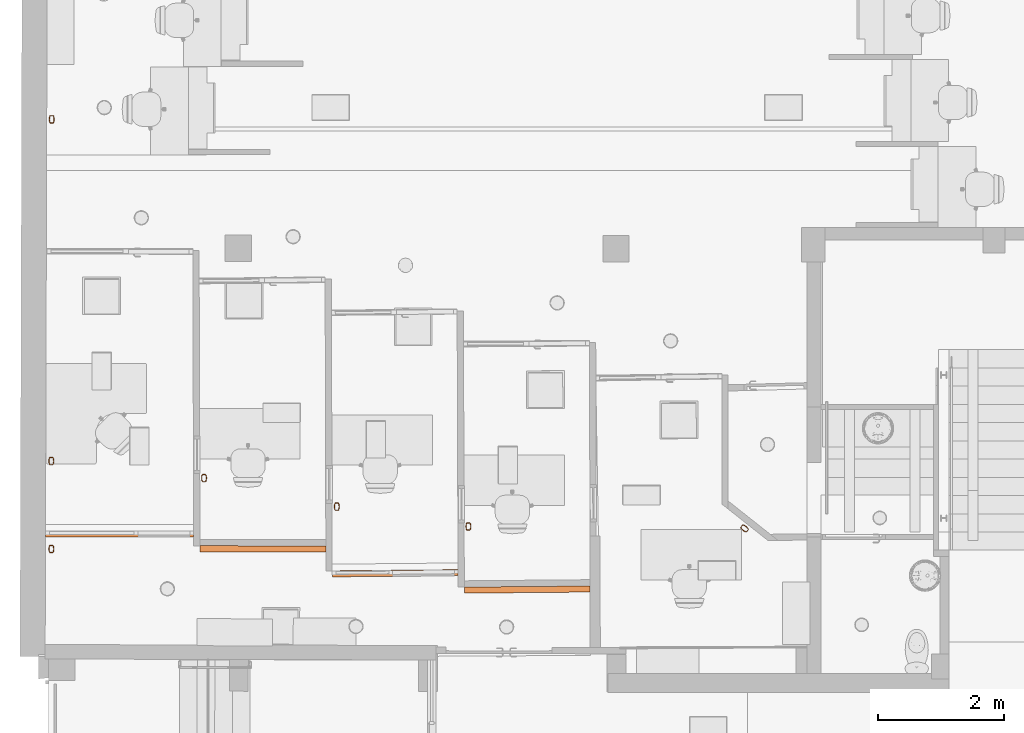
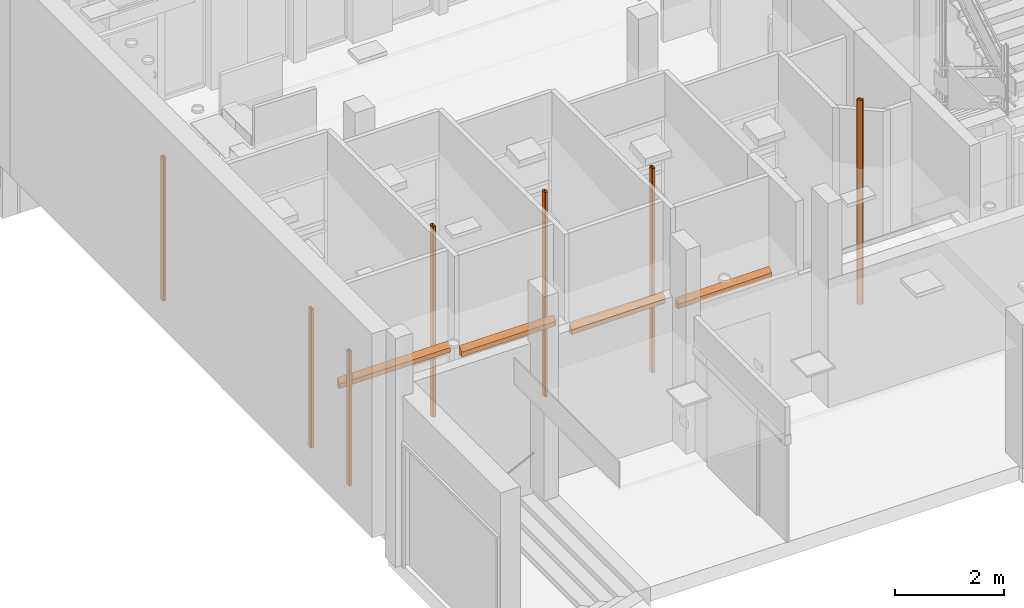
# One storey, part 124 of 128: 11 proxies.
"""IFC2X3 building model written with IfcOpenShell, lengths in metres."""

from ifc_helpers import new_model, entity, si_unit, converted_unit, derived_unit, direction, frame, origin, place, context, subcontext, project, spatial, polyline, outline, extrude, source, transform, mapped, material, type_object, type_shapes, element, save


model = new_model("IFC2X3")

# Units and contexts
model_context = context("Model", 3, precision=1e-05, world=origin(), true_north=direction((6.123031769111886e-17, 1.0)))
body_context = subcontext(model_context, "Body", "Model", "MODEL_VIEW")
ifc_project = project(units=[si_unit("LENGTHUNIT", "METRE"), si_unit("AREAUNIT", "SQUARE_METRE"), converted_unit("PLANEANGLEUNIT", "DEGREE", entity("IfcPlaneAngleMeasure", 0.017453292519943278), si_unit("PLANEANGLEUNIT", "RADIAN"), dimensions=[0, 0, 0, 0, 0, 0, 0]), derived_unit("THERMALTRANSMITTANCEUNIT", [(si_unit("MASSUNIT", "GRAM", prefix="KILO"), 1), (si_unit("THERMODYNAMICTEMPERATUREUNIT", "KELVIN"), -1), (si_unit("TIMEUNIT", "SECOND"), -3)])], contexts=[model_context])

# Site, building, storey
site_placement = place(None, origin())
site = spatial("IfcSite", under=ifc_project, at=site_placement, Name="Default", CompositionType="ELEMENT")
building_placement = place(site_placement, origin())
building = spatial("IfcBuilding", under=site, at=building_placement, CompositionType="ELEMENT")
storey_placement = place(building_placement, origin())
storey = spatial("IfcBuildingStorey", under=building, at=storey_placement, Name="00_RDC CAF", CompositionType="ELEMENT", Elevation=2.4982504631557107e-13)

# Proxies
ifc_material_1 = material(Name="<Unnamed>")
building_element_proxy_type_1 = type_object("IfcBuildingElementProxyType", Name="Eq_Elec_Colonne_Electrique:Eq_Elec_Colonne_Electrique_120x80mm", PredefinedType="NOTDEFINED", material=ifc_material_1)
shared_shape_1 = source(origin(), body_context, "Body", "SweptSolid", [
    extrude(outline(polyline([(-0.020000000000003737, -0.05999999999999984), (0.019999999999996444, -0.05999999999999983), (0.023128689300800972, -0.05926130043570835), (0.02907980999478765, -0.053460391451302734), (0.03414213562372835, -0.042426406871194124), (0.0378201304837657, -0.027239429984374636), (0.03975376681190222, -0.009386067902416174), (0.03975376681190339, 0.009386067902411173), (0.03782013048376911, 0.02723942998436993), (0.03414213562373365, 0.04242640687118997), (0.029079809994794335, 0.05346039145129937), (0.02312868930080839, 0.05926130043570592), (0.020000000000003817, 0.05999999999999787), (-0.019999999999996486, 0.06000000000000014), (-0.02312868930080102, 0.05926130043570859), (-0.029079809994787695, 0.05346039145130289), (-0.034142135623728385, 0.042426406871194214), (-0.03782013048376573, 0.02723942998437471), (-0.03975376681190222, 0.009386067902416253), (-0.03975376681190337, -0.009386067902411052), (-0.037820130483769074, -0.02723942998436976), (-0.03414213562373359, -0.04242640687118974), (-0.02907980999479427, -0.053460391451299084), (-0.023128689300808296, -0.05926130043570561), (-0.020000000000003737, -0.05999999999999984)]), holes=[polyline([(-0.020000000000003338, -0.054999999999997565), (-0.020774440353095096, -0.05483604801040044), (-0.0220433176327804, -0.05405805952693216), (-0.023758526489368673, -0.05229805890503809), (-0.025667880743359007, -0.04946080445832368), (-0.027588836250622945, -0.04560885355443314), (-0.029398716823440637, -0.04084541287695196), (-0.031022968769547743, -0.03528665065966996), (-0.032410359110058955, -0.029054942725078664), (-0.03352451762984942, -0.02227710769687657), (-0.03433829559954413, -0.015084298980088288), (-0.03483355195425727, -0.007612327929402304), (-0.035000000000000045, 0.0), (-0.03483355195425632, 0.007612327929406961), (-0.03433829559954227, 0.01508429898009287), (-0.033524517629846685, 0.022277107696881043), (-0.03241035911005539, 0.02905494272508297), (-0.031022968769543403, 0.035286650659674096), (-0.02939871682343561, 0.04084541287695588), (-0.027588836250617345, 0.04560885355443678), (-0.025667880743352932, 0.04946080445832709), (-0.02375852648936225, 0.052298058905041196), (-0.022043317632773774, 0.054058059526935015), (-0.020774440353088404, 0.05483604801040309), (-0.019999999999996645, 0.05500000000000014), (0.020000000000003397, 0.05499999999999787), (0.020774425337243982, 0.054836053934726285), (0.022043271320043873, 0.05405809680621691), (0.023758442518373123, 0.05229816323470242), (0.025667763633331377, 0.049461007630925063), (0.02758869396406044, 0.04560918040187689), (0.02939856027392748, 0.04084588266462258), (0.03102280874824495, 0.03528727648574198), (0.0324102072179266, 0.02905573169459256), (0.03352438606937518, 0.022278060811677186), (0.034338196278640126, 0.015085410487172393), (0.03483349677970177, 0.007613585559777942), (0.0349999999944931, 1.3846905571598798e-06), (0.03483361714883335, -0.007610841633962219), (0.03433843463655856, -0.01508274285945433), (0.03352473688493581, -0.022275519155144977), (0.03241066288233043, -0.029053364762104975), (0.031023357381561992, -0.03528513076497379), (0.02939918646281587, -0.04084400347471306), (0.02758937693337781, -0.045607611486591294), (0.025668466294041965, -0.04945978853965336), (0.023759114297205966, -0.05229732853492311), (0.022043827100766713, -0.05405764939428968), (0.02077478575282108, -0.054835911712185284), (0.020000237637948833, -0.05500000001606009), (-0.020000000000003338, -0.054999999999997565)])]), frame((0.0, 0.0, 0.0), z_axis=(0.0, 0.0, 1.0), x_axis=(0.0, -1.0, 0.0)), (0.0, 0.0, 1.0), 3.2),
])
type_shapes(building_element_proxy_type_1, [shared_shape_1])
proxy_1_placement = place(storey_placement, frame((6.76459806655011, 138.60449110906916, 0.0), z_axis=(0.0, 0.0, 1.0), x_axis=(0.0, -1.0, 0.0)))
element("IfcBuildingElementProxy", 1, at=proxy_1_placement, inside=storey, type_object=building_element_proxy_type_1, material=ifc_material_1, Name="Eq_Elec_Colonne_Electrique:Eq_Elec_Colonne_Electrique_120x80mm", ObjectType="Eq_Elec_Colonne_Electrique:Eq_Elec_Colonne_Electrique_120x80mm", context=body_context, shape_type="MappedRepresentation", body=[
    mapped(shared_shape_1, transform((0.0, 0.0, 0.0), scale=1.0)),
])
building_element_proxy_type_2 = type_object("IfcBuildingElementProxyType", Name="Eq_Elec_Colonne_Electrique:Eq_Elec_Colonne_Electrique_120x80mm", PredefinedType="NOTDEFINED", material=ifc_material_1)
shared_shape_2 = source(origin(), body_context, "Body", "SweptSolid", [
    extrude(outline(polyline([(-0.020000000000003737, -0.05999999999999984), (0.019999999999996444, -0.05999999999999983), (0.023128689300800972, -0.05926130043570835), (0.02907980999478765, -0.053460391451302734), (0.03414213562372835, -0.042426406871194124), (0.0378201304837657, -0.027239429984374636), (0.03975376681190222, -0.009386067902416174), (0.03975376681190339, 0.009386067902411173), (0.03782013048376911, 0.02723942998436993), (0.03414213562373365, 0.04242640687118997), (0.029079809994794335, 0.05346039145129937), (0.02312868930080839, 0.05926130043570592), (0.020000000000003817, 0.05999999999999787), (-0.019999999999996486, 0.06000000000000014), (-0.02312868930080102, 0.05926130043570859), (-0.029079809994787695, 0.05346039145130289), (-0.034142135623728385, 0.042426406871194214), (-0.03782013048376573, 0.02723942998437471), (-0.03975376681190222, 0.009386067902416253), (-0.03975376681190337, -0.009386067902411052), (-0.037820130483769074, -0.02723942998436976), (-0.03414213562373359, -0.04242640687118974), (-0.02907980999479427, -0.053460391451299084), (-0.023128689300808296, -0.05926130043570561), (-0.020000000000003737, -0.05999999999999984)]), holes=[polyline([(-0.020000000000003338, -0.054999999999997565), (-0.020774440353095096, -0.05483604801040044), (-0.0220433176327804, -0.05405805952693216), (-0.023758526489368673, -0.05229805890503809), (-0.025667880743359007, -0.04946080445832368), (-0.027588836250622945, -0.04560885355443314), (-0.029398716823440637, -0.04084541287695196), (-0.031022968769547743, -0.03528665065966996), (-0.032410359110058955, -0.029054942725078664), (-0.03352451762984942, -0.02227710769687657), (-0.03433829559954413, -0.015084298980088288), (-0.03483355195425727, -0.007612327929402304), (-0.035000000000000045, 0.0), (-0.03483355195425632, 0.007612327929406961), (-0.03433829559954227, 0.01508429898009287), (-0.033524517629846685, 0.022277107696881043), (-0.03241035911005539, 0.02905494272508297), (-0.031022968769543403, 0.035286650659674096), (-0.02939871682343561, 0.04084541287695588), (-0.027588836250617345, 0.04560885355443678), (-0.025667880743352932, 0.04946080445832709), (-0.02375852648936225, 0.052298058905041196), (-0.022043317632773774, 0.054058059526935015), (-0.020774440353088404, 0.05483604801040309), (-0.019999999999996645, 0.05500000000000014), (0.020000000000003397, 0.05499999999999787), (0.020774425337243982, 0.054836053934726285), (0.022043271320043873, 0.05405809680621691), (0.023758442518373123, 0.05229816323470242), (0.025667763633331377, 0.049461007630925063), (0.02758869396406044, 0.04560918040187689), (0.02939856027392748, 0.04084588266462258), (0.03102280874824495, 0.03528727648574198), (0.0324102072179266, 0.02905573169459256), (0.03352438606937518, 0.022278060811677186), (0.034338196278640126, 0.015085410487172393), (0.03483349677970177, 0.007613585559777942), (0.0349999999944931, 1.3846905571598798e-06), (0.03483361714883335, -0.007610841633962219), (0.03433843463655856, -0.01508274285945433), (0.03352473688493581, -0.022275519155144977), (0.03241066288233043, -0.029053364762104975), (0.031023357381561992, -0.03528513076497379), (0.02939918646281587, -0.04084400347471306), (0.02758937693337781, -0.045607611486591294), (0.025668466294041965, -0.04945978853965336), (0.023759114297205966, -0.05229732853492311), (0.022043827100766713, -0.05405764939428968), (0.02077478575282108, -0.054835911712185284), (0.020000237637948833, -0.05500000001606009), (-0.020000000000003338, -0.054999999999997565)])]), frame((0.0, 0.0, 0.0), z_axis=(0.0, 0.0, 1.0), x_axis=(0.0, -1.0, 0.0)), (0.0, 0.0, 1.0), 3.0999999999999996),
])
type_shapes(building_element_proxy_type_2, [shared_shape_2])
proxy_2_placement = place(storey_placement, frame((6.758705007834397, 133.17071065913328, 0.0), z_axis=(0.0, 0.0, 1.0), x_axis=(0.0, 1.0, 0.0)))
element("IfcBuildingElementProxy", 2, at=proxy_2_placement, inside=storey, type_object=building_element_proxy_type_2, material=ifc_material_1, Name="Eq_Elec_Colonne_Electrique:Eq_Elec_Colonne_Electrique_120x80mm", ObjectType="Eq_Elec_Colonne_Electrique:Eq_Elec_Colonne_Electrique_120x80mm", context=body_context, shape_type="MappedRepresentation", body=[
    mapped(shared_shape_2, transform((0.0, 0.0, 0.0), scale=1.0)),
])
building_element_proxy_type_3 = type_object("IfcBuildingElementProxyType", Name="Eq_Elec_Colonne_Electrique:Eq_Elec_Colonne_Electrique_120x80mm", PredefinedType="NOTDEFINED", material=ifc_material_1)
shared_shape_3 = source(origin(), body_context, "Body", "SweptSolid", [
    extrude(outline(polyline([(-0.020000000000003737, -0.05999999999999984), (0.019999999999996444, -0.05999999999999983), (0.023128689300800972, -0.05926130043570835), (0.02907980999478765, -0.053460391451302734), (0.03414213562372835, -0.042426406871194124), (0.0378201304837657, -0.027239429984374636), (0.03975376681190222, -0.009386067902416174), (0.03975376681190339, 0.009386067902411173), (0.03782013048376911, 0.02723942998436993), (0.03414213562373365, 0.04242640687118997), (0.029079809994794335, 0.05346039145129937), (0.02312868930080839, 0.05926130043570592), (0.020000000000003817, 0.05999999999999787), (-0.019999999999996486, 0.06000000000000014), (-0.02312868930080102, 0.05926130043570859), (-0.029079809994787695, 0.05346039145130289), (-0.034142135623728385, 0.042426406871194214), (-0.03782013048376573, 0.02723942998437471), (-0.03975376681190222, 0.009386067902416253), (-0.03975376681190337, -0.009386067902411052), (-0.037820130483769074, -0.02723942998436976), (-0.03414213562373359, -0.04242640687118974), (-0.02907980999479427, -0.053460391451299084), (-0.023128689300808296, -0.05926130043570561), (-0.020000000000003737, -0.05999999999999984)]), holes=[polyline([(-0.020000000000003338, -0.054999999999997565), (-0.020774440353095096, -0.05483604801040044), (-0.0220433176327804, -0.05405805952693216), (-0.023758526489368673, -0.05229805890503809), (-0.025667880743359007, -0.04946080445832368), (-0.027588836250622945, -0.04560885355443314), (-0.029398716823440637, -0.04084541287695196), (-0.031022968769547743, -0.03528665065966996), (-0.032410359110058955, -0.029054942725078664), (-0.03352451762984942, -0.02227710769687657), (-0.03433829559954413, -0.015084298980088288), (-0.03483355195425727, -0.007612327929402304), (-0.035000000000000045, 0.0), (-0.03483355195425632, 0.007612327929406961), (-0.03433829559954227, 0.01508429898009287), (-0.033524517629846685, 0.022277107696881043), (-0.03241035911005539, 0.02905494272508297), (-0.031022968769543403, 0.035286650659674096), (-0.02939871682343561, 0.04084541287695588), (-0.027588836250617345, 0.04560885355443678), (-0.025667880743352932, 0.04946080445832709), (-0.02375852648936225, 0.052298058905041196), (-0.022043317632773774, 0.054058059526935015), (-0.020774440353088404, 0.05483604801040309), (-0.019999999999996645, 0.05500000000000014), (0.020000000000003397, 0.05499999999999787), (0.020774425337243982, 0.054836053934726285), (0.022043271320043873, 0.05405809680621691), (0.023758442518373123, 0.05229816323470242), (0.025667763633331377, 0.049461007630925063), (0.02758869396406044, 0.04560918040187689), (0.02939856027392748, 0.04084588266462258), (0.03102280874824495, 0.03528727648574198), (0.0324102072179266, 0.02905573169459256), (0.03352438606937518, 0.022278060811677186), (0.034338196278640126, 0.015085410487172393), (0.03483349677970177, 0.007613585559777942), (0.0349999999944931, 1.3846905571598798e-06), (0.03483361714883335, -0.007610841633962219), (0.03433843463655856, -0.01508274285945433), (0.03352473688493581, -0.022275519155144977), (0.03241066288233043, -0.029053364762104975), (0.031023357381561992, -0.03528513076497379), (0.02939918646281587, -0.04084400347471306), (0.02758937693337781, -0.045607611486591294), (0.025668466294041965, -0.04945978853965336), (0.023759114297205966, -0.05229732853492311), (0.022043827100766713, -0.05405764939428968), (0.02077478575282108, -0.054835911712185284), (0.020000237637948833, -0.05500000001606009), (-0.020000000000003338, -0.054999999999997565)])]), frame((0.0, 0.0, 0.0), z_axis=(0.0, 0.0, 1.0), x_axis=(0.0, -1.0, 0.0)), (0.0, 0.0, 1.0), 4.278000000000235),
])
type_shapes(building_element_proxy_type_3, [shared_shape_3])
proxy_3_placement = place(storey_placement, frame((9.186232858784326, 132.90071897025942, 0.0), z_axis=(0.0, 0.0, 1.0), x_axis=(0.0, 1.0, 0.0)))
element("IfcBuildingElementProxy", 3, at=proxy_3_placement, inside=storey, type_object=building_element_proxy_type_3, material=ifc_material_1, Name="Eq_Elec_Colonne_Electrique:Eq_Elec_Colonne_Electrique_120x80mm", ObjectType="Eq_Elec_Colonne_Electrique:Eq_Elec_Colonne_Electrique_120x80mm", context=body_context, shape_type="MappedRepresentation", body=[
    mapped(shared_shape_3, transform((0.0, 0.0, 0.0), scale=1.0)),
])
building_element_proxy_type_4 = type_object("IfcBuildingElementProxyType", Name="Eq_Elec_Colonne_Electrique:Eq_Elec_Colonne_Electrique_120x80mm", PredefinedType="NOTDEFINED", material=ifc_material_1)
shared_shape_4 = source(origin(), body_context, "Body", "SweptSolid", [
    extrude(outline(polyline([(-0.020000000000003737, -0.05999999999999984), (0.019999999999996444, -0.05999999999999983), (0.023128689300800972, -0.05926130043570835), (0.02907980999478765, -0.053460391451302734), (0.03414213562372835, -0.042426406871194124), (0.0378201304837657, -0.027239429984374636), (0.03975376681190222, -0.009386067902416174), (0.03975376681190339, 0.009386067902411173), (0.03782013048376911, 0.02723942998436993), (0.03414213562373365, 0.04242640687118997), (0.029079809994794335, 0.05346039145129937), (0.02312868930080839, 0.05926130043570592), (0.020000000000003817, 0.05999999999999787), (-0.019999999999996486, 0.06000000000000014), (-0.02312868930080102, 0.05926130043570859), (-0.029079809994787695, 0.05346039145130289), (-0.034142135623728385, 0.042426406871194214), (-0.03782013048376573, 0.02723942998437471), (-0.03975376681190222, 0.009386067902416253), (-0.03975376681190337, -0.009386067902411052), (-0.037820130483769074, -0.02723942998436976), (-0.03414213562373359, -0.04242640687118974), (-0.02907980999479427, -0.053460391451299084), (-0.023128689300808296, -0.05926130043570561), (-0.020000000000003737, -0.05999999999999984)]), holes=[polyline([(-0.020000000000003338, -0.054999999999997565), (-0.020774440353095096, -0.05483604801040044), (-0.0220433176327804, -0.05405805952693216), (-0.023758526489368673, -0.05229805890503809), (-0.025667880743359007, -0.04946080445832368), (-0.027588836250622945, -0.04560885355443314), (-0.029398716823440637, -0.04084541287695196), (-0.031022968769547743, -0.03528665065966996), (-0.032410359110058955, -0.029054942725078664), (-0.03352451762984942, -0.02227710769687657), (-0.03433829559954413, -0.015084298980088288), (-0.03483355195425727, -0.007612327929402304), (-0.035000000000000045, 0.0), (-0.03483355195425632, 0.007612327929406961), (-0.03433829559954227, 0.01508429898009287), (-0.033524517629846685, 0.022277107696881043), (-0.03241035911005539, 0.02905494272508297), (-0.031022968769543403, 0.035286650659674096), (-0.02939871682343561, 0.04084541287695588), (-0.027588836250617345, 0.04560885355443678), (-0.025667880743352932, 0.04946080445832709), (-0.02375852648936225, 0.052298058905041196), (-0.022043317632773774, 0.054058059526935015), (-0.020774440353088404, 0.05483604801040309), (-0.019999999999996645, 0.05500000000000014), (0.020000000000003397, 0.05499999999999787), (0.020774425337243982, 0.054836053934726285), (0.022043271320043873, 0.05405809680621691), (0.023758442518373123, 0.05229816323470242), (0.025667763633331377, 0.049461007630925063), (0.02758869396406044, 0.04560918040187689), (0.02939856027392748, 0.04084588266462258), (0.03102280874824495, 0.03528727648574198), (0.0324102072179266, 0.02905573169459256), (0.03352438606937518, 0.022278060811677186), (0.034338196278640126, 0.015085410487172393), (0.03483349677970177, 0.007613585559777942), (0.0349999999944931, 1.3846905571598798e-06), (0.03483361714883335, -0.007610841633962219), (0.03433843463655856, -0.01508274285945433), (0.03352473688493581, -0.022275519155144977), (0.03241066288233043, -0.029053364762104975), (0.031023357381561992, -0.03528513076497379), (0.02939918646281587, -0.04084400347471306), (0.02758937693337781, -0.045607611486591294), (0.025668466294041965, -0.04945978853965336), (0.023759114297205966, -0.05229732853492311), (0.022043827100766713, -0.05405764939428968), (0.02077478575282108, -0.054835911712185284), (0.020000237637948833, -0.05500000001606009), (-0.020000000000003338, -0.054999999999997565)])]), frame((0.0, 0.0, 0.0), z_axis=(0.0, 0.0, 1.0), x_axis=(0.0, -1.0, 0.0)), (0.0, 0.0, 1.0), 4.578000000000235),
])
type_shapes(building_element_proxy_type_4, [shared_shape_4])
for number, where, z_axis, x_axis, name in (
    (4, (11.297805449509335, 132.44601462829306, 0.0), (0.0, 0.0, 1.0), (0.0, 1.0, 0.0), "Eq_Elec_Colonne_Electrique:Eq_Elec_Colonne_Electrique_120x80mm"),
    (5, (13.390062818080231, 132.1306985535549, 0.0), (0.0, 0.0, 1.0), (0.0, 1.0, 0.0), "Eq_Elec_Colonne_Electrique:Eq_Elec_Colonne_Electrique_120x80mm"),
    (6, (17.78001314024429, 132.1003485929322, 0.0), (0.0, 0.0, 1.0), (-0.7844656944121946, 0.6201722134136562, 0.0), "Eq_Elec_Colonne_Electrique:Eq_Elec_Colonne_Electrique_120x80mm"),
):
    element("IfcBuildingElementProxy", number, at=place(storey_placement, frame(where, z_axis=z_axis, x_axis=x_axis)), inside=storey, type_object=building_element_proxy_type_4, material=ifc_material_1, Name=name, ObjectType="Eq_Elec_Colonne_Electrique:Eq_Elec_Colonne_Electrique_120x80mm", context=body_context, shape_type="MappedRepresentation", body=[
        mapped(shared_shape_4, transform((0.0, 0.0, 0.0), scale=1.0)),
    ])
building_element_proxy_type_5 = type_object("IfcBuildingElementProxyType", Name="Eq_Elec_Colonne_Electrique:Eq_Elec_Colonne_Electrique_120x80mm", PredefinedType="NOTDEFINED", material=ifc_material_1)
shared_shape_5 = source(origin(), body_context, "Body", "SweptSolid", [
    extrude(outline(polyline([(-0.020000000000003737, -0.05999999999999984), (0.019999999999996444, -0.05999999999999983), (0.023128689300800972, -0.05926130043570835), (0.02907980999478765, -0.053460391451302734), (0.03414213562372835, -0.042426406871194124), (0.0378201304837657, -0.027239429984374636), (0.03975376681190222, -0.009386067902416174), (0.03975376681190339, 0.009386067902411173), (0.03782013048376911, 0.02723942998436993), (0.03414213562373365, 0.04242640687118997), (0.029079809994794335, 0.05346039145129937), (0.02312868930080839, 0.05926130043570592), (0.020000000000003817, 0.05999999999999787), (-0.019999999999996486, 0.06000000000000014), (-0.02312868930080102, 0.05926130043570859), (-0.029079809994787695, 0.05346039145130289), (-0.034142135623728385, 0.042426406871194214), (-0.03782013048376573, 0.02723942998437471), (-0.03975376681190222, 0.009386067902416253), (-0.03975376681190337, -0.009386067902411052), (-0.037820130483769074, -0.02723942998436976), (-0.03414213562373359, -0.04242640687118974), (-0.02907980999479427, -0.053460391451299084), (-0.023128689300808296, -0.05926130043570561), (-0.020000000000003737, -0.05999999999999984)]), holes=[polyline([(-0.020000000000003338, -0.054999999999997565), (-0.020774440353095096, -0.05483604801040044), (-0.0220433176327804, -0.05405805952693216), (-0.023758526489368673, -0.05229805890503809), (-0.025667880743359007, -0.04946080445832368), (-0.027588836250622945, -0.04560885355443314), (-0.029398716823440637, -0.04084541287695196), (-0.031022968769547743, -0.03528665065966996), (-0.032410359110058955, -0.029054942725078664), (-0.03352451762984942, -0.02227710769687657), (-0.03433829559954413, -0.015084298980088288), (-0.03483355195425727, -0.007612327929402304), (-0.035000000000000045, 0.0), (-0.03483355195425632, 0.007612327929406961), (-0.03433829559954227, 0.01508429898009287), (-0.033524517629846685, 0.022277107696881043), (-0.03241035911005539, 0.02905494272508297), (-0.031022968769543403, 0.035286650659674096), (-0.02939871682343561, 0.04084541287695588), (-0.027588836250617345, 0.04560885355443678), (-0.025667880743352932, 0.04946080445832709), (-0.02375852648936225, 0.052298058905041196), (-0.022043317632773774, 0.054058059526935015), (-0.020774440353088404, 0.05483604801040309), (-0.019999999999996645, 0.05500000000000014), (0.020000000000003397, 0.05499999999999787), (0.020774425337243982, 0.054836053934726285), (0.022043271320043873, 0.05405809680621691), (0.023758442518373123, 0.05229816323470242), (0.025667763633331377, 0.049461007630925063), (0.02758869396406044, 0.04560918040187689), (0.02939856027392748, 0.04084588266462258), (0.03102280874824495, 0.03528727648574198), (0.0324102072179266, 0.02905573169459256), (0.03352438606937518, 0.022278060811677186), (0.034338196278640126, 0.015085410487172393), (0.03483349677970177, 0.007613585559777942), (0.0349999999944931, 1.3846905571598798e-06), (0.03483361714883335, -0.007610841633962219), (0.03433843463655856, -0.01508274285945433), (0.03352473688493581, -0.022275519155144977), (0.03241066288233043, -0.029053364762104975), (0.031023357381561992, -0.03528513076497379), (0.02939918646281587, -0.04084400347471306), (0.02758937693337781, -0.045607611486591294), (0.025668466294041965, -0.04945978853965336), (0.023759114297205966, -0.05229732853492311), (0.022043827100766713, -0.05405764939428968), (0.02077478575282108, -0.054835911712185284), (0.020000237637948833, -0.05500000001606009), (-0.020000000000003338, -0.054999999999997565)])]), frame((0.0, 0.0, 0.0), z_axis=(0.0, 0.0, 1.0), x_axis=(0.0, -1.0, 0.0)), (0.0, 0.0, 1.0), 2.9999999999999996),
])
type_shapes(building_element_proxy_type_5, [shared_shape_5])
proxy_4_placement = place(storey_placement, frame((6.759705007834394, 131.7737106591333, 0.0), z_axis=(0.0, 0.0, 1.0), x_axis=(0.0, 1.0, 0.0)))
element("IfcBuildingElementProxy", 7, at=proxy_4_placement, inside=storey, type_object=building_element_proxy_type_5, material=ifc_material_1, Name="Eq_Elec_Colonne_Electrique:Eq_Elec_Colonne_Electrique_120x80mm", ObjectType="Eq_Elec_Colonne_Electrique:Eq_Elec_Colonne_Electrique_120x80mm", context=body_context, shape_type="MappedRepresentation", body=[
    mapped(shared_shape_5, transform((0.0, 0.0, 0.0), scale=1.0)),
])
ifc_material_2 = material(Name="STR - Beton")
building_element_proxy_type_6 = type_object("IfcBuildingElementProxyType", Name="Profil en relief:M_Profil_Relief_N1", PredefinedType="NOTDEFINED")
proxy_5_placement = place(storey_placement, origin())
element("IfcBuildingElementProxy", 8, at=proxy_5_placement, inside=storey, type_object=building_element_proxy_type_6, material=ifc_material_2, Name="Profil en relief:M_Profil_Relief_N1", ObjectType="Profil en relief:M_Profil_Relief_N1", context=body_context, shape_type="SweptSolid", body=[
    extrude(outline(polyline([(-0.04855635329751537, -0.07486023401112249), (0.04855635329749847, -0.07486023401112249), (0.048556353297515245, 0.12013976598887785), (-0.04855635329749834, 0.029580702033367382), (-0.04855635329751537, -0.07486023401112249)])), frame((6.666784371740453, 132.01409084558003, 2.1273602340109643), z_axis=(1.0, 0.0, 0.0), x_axis=(0.0, 1.0, 0.0)), (0.0, 0.0, 1.0), 2.3535247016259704),
])
proxy_6_placement = place(storey_placement, origin())
element("IfcBuildingElementProxy", 9, at=proxy_6_placement, inside=storey, type_object=building_element_proxy_type_6, material=ifc_material_2, Name="Profil en relief:M_Profil_Relief_N1", ObjectType="Profil en relief:M_Profil_Relief_N1", context=body_context, shape_type="SweptSolid", body=[
    extrude(outline(polyline([(-0.048556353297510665, -0.07486023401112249), (0.04855635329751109, -0.07486023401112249), (0.04855635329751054, 0.12013976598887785), (-0.048556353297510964, 0.029580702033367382), (-0.048556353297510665, -0.07486023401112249)])), frame((9.120677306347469, 131.777427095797, 2.1273602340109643), z_axis=(0.9999982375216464, -0.0018774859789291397, 0.0), x_axis=(0.0018774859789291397, 0.9999982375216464, 0.0)), (0.0, 0.0, 1.0), 2.001507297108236),
])
proxy_7_placement = place(storey_placement, origin())
element("IfcBuildingElementProxy", 10, at=proxy_7_placement, inside=storey, type_object=building_element_proxy_type_6, material=ifc_material_2, Name="Profil en relief:M_Profil_Relief_N1", ObjectType="Profil en relief:M_Profil_Relief_N1", context=body_context, shape_type="SweptSolid", body=[
    extrude(outline(polyline([(-0.04855635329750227, -0.07486023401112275), (0.04855635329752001, -0.07486023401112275), (0.04855635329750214, 0.12013976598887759), (-0.04855635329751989, 0.02958070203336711), (-0.04855635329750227, -0.07486023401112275)])), frame((11.224994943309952, 131.37763836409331, 2.1273602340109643), z_axis=(0.9999522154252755, 0.009775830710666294, 0.0), x_axis=(-0.009775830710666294, 0.9999522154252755, 0.0)), (0.0, 0.0, 1.0), 2.000306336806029),
])
proxy_8_placement = place(storey_placement, origin())
element("IfcBuildingElementProxy", 11, at=proxy_8_placement, inside=storey, type_object=building_element_proxy_type_6, material=ifc_material_2, Name="Profil en relief:M_Profil_Relief_N1", ObjectType="Profil en relief:M_Profil_Relief_N1", context=body_context, shape_type="SweptSolid", body=[
    extrude(outline(polyline([(-0.048556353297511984, -0.07486023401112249), (0.04855635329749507, -0.07486023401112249), (0.04855635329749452, 0.12013976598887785), (-0.04855635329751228, 0.029580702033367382), (-0.048556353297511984, -0.07486023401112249)])), frame((13.326039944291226, 131.11924808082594, 2.1273602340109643), z_axis=(0.9999600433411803, 0.008939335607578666, 0.0), x_axis=(-0.008939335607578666, 0.9999600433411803, 0.0)), (0.0, 0.0, 1.0), 1.998964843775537),
])

save(model, "model.ifc")
